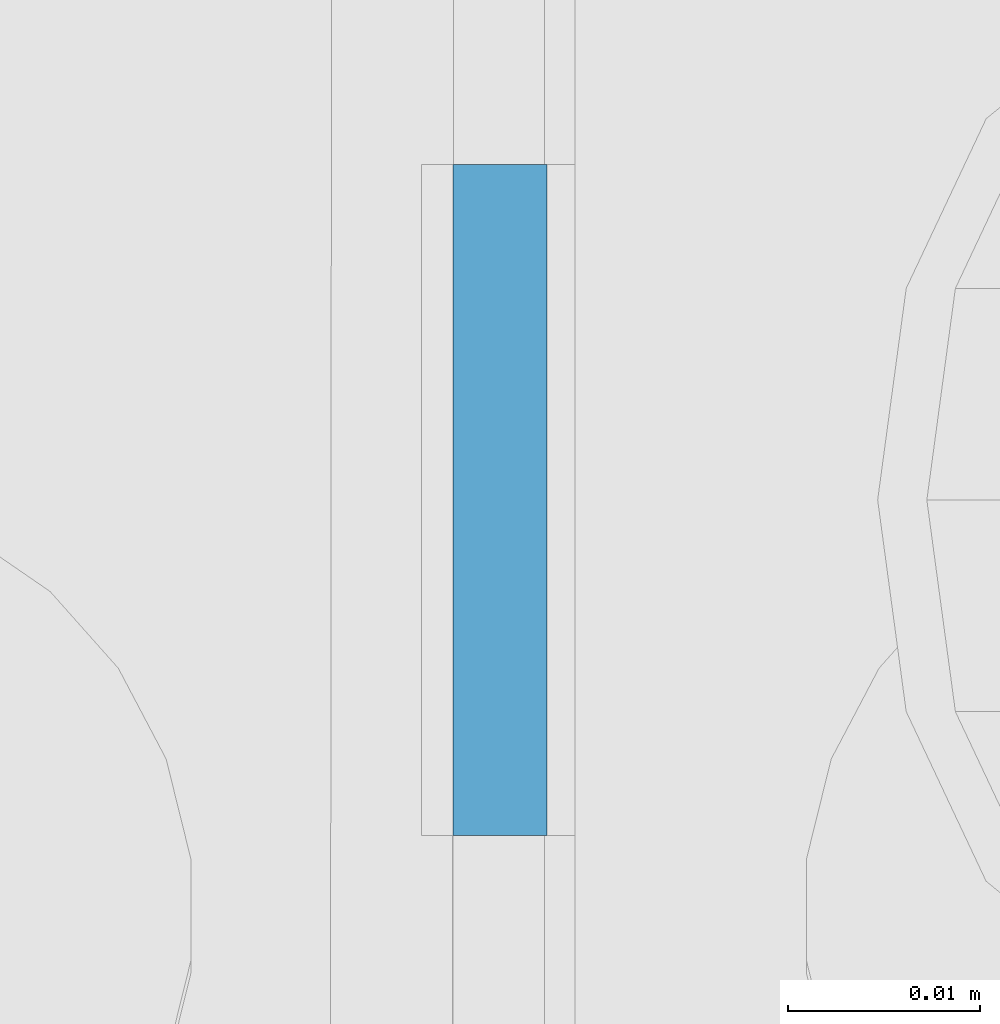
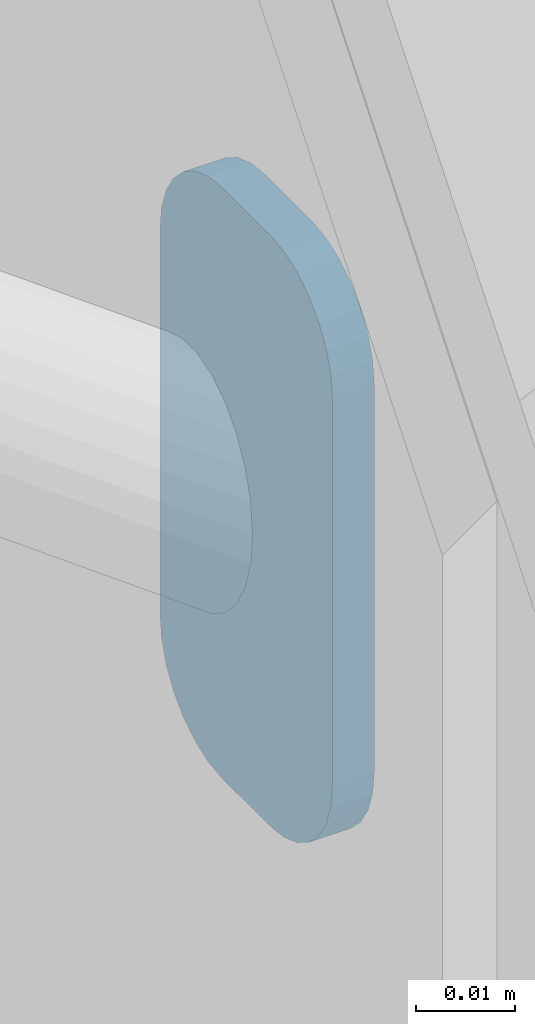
# One storey, part 178 of 185: 1 mechanical fastener, 1 element without a shape of its own.
"""IFC2X3 building model written with IfcOpenShell, lengths in millimetres."""

from ifc_helpers import new_model, si_unit, frame, frame_2d, origin_with_axes, place, context, subcontext, project, spatial, polyline, circle_curve, parameter, trimmed, segment, composite_curve, outline, extrude, source, transform, mapped, material, type_object, element, aggregate, save


model = new_model("IFC2X3")

# Units and contexts
model_context = context("Model", 3, precision=1e-05, world=origin_with_axes())
body_context = subcontext(model_context, "Body", "Model", "MODEL_VIEW")
ifc_project = project(units=[si_unit("LENGTHUNIT", "METRE", prefix="MILLI"), si_unit("AREAUNIT", "SQUARE_METRE"), si_unit("VOLUMEUNIT", "CUBIC_METRE"), si_unit("MASSUNIT", "GRAM", prefix="KILO"), si_unit("TIMEUNIT", "SECOND"), si_unit("PLANEANGLEUNIT", "RADIAN"), si_unit("SOLIDANGLEUNIT", "STERADIAN"), si_unit("THERMODYNAMICTEMPERATUREUNIT", "DEGREE_CELSIUS"), si_unit("LUMINOUSINTENSITYUNIT", "LUMEN")], contexts=[model_context])

# Site, building, storey
site_placement = place(None, origin_with_axes())
site = spatial("IfcSite", under=ifc_project, at=site_placement, Name="Undefined", CompositionType="ELEMENT")
building_placement = place(site_placement, origin_with_axes())
building = spatial("IfcBuilding", under=site, at=building_placement, Name="Undefined", CompositionType="ELEMENT")
storey_placement = place(building_placement, origin_with_axes())
storey = spatial("IfcBuildingStorey", under=building, at=storey_placement, Name="Undefined", CompositionType="ELEMENT", Elevation=0.0)

# Assembly, mechanical fastener
assembly_placement = place(storey_placement, origin_with_axes())
assembly = element("IfcElementAssembly", 1, at=assembly_placement, inside=storey, Name="Steel Assembly", AssemblyPlace="NOTDEFINED", PredefinedType="RIGID_FRAME")
ifc_material = material(Name="Undefined")
discrete_accessory_type = type_object("IfcDiscreteAccessoryType", Name="Bolt assembly")
shared_shape = source(origin_with_axes(), body_context, "Body", "SweptSolid", [
    extrude(outline(composite_curve([segment(polyline([(-23.8125, 17.4624996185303), (23.8125, 17.4624996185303)]), True, "CONTINUOUS"), segment(trimmed(circle_curve(frame_2d((23.8125, 4.76249980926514), x_axis=(0.0, 1.0)), 12.7), [parameter(0.0)], [parameter(4.71238898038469)], False, "PARAMETER"), True, "CONTINUOUS"), segment(polyline([(36.5124998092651, 4.76249980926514), (36.5124998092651, -4.76249980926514)]), True, "CONTINUOUS"), segment(trimmed(circle_curve(frame_2d((23.8125, -4.76249980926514), x_axis=(1.0, 0.0)), 12.7), [parameter(0.0)], [parameter(4.71238898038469)], False, "PARAMETER"), True, "CONTINUOUS"), segment(polyline([(23.8125, -17.4624996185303), (-23.8125, -17.4624996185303)]), True, "CONTINUOUS"), segment(trimmed(circle_curve(frame_2d((-23.8125, -4.76249980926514), x_axis=(0.0, -1.0)), 12.7), [parameter(0.0)], [parameter(4.71238898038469)], False, "PARAMETER"), True, "CONTINUOUS"), segment(polyline([(-36.5124998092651, -4.76249980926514), (-36.5124998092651, 4.76249980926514)]), True, "CONTINUOUS"), segment(trimmed(circle_curve(frame_2d((-23.8125, 4.76249980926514), x_axis=(-1.0, 0.0)), 12.7), [parameter(0.0)], [parameter(4.71238898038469)], False, "PARAMETER"), True, "DISCONTINUOUS")], self_intersect=False)), frame((0.0, -2.38125000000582, 0.0), z_axis=(0.0, 1.0, 0.0), x_axis=(1.0, 0.0, 0.0)), (0.0, 0.0, 1.0), 4.9),
])
mechanical_fastener_placement = place(assembly_placement, frame((37719.0, 31742.1260000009, 168.420316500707), z_axis=(0.0, 1.0, 0.0), x_axis=(0.0, 0.0, 1.0)))
mechanical_fastener = element("IfcMechanicalFastener", 2, at=mechanical_fastener_placement, type_object=discrete_accessory_type, material=ifc_material, Name="Bolt assembly", NominalDiameter=25.3999996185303, NominalLength=31.75, context=body_context, shape_type="MappedRepresentation", body=[
    mapped(shared_shape, transform((0.0, 0.0, 0.0))),
])
aggregate(assembly, [mechanical_fastener])

save(model, "model.ifc")
